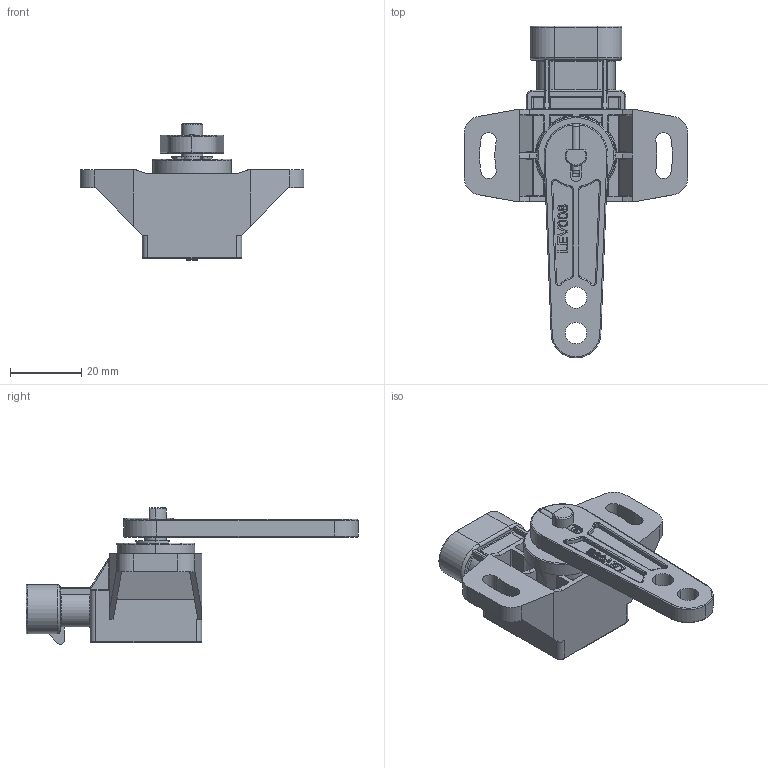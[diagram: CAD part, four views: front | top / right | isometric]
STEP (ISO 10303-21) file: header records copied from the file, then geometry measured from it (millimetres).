
FILE_DESCRIPTION (( 'STEP AP203' ), '1' );
FILE_NAME ('GR3PA S5E1HS xxx xxxx B0.STEP', '2024-12-19T15:09:45', ( '' ), ( '' ), 'SwSTEP 2.0', 'SolidWorks 2024', '' );
FILE_SCHEMA (( 'CONFIG_CONTROL_DESIGN' ));
Length unit declared in the file: millimetre
Products named in the file (1): GR3PA S5E1HS xxx xxxx B0
Bounding box: 63 x 93.5 x 38.47 mm (x, y, z)
Volume: 29145.8 mm3; surface area: 16406 mm2
Topology: 9 solids, 9 shells, 752 faces, 1861 edges, 1123 vertices
Faces by surface type: plane 275, cylinder 250, bspline 84, torus 70, sphere 40, cone 33
Entity records: 26939 total; most frequent: CARTESIAN_POINT 9578, ORIENTED_EDGE 3650, DIRECTION 3550, EDGE_CURVE 1825, AXIS2_PLACEMENT_3D 1314, VERTEX_POINT 1123, VECTOR 922, LINE 922
